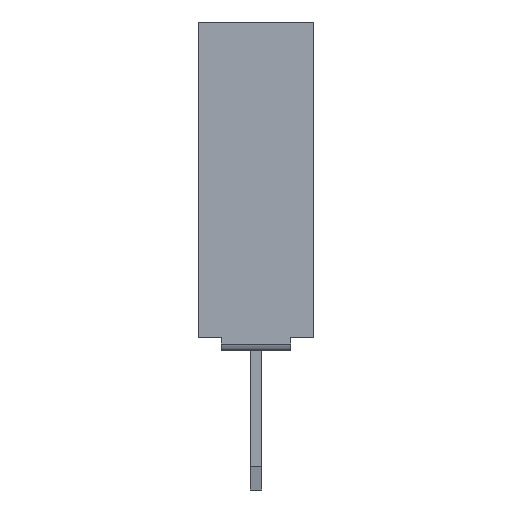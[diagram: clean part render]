
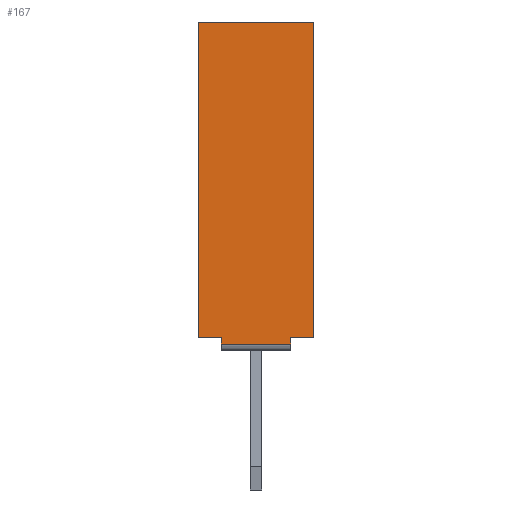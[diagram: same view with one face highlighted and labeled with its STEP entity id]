
A CAD part, front view. The second image highlights one B-rep face of the part: STEP entity #167.
In plain terms, the highlighted planar face has unit normal (0, -1, 0).
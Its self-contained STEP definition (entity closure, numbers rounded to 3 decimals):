
#167=ADVANCED_FACE('',(#1111),#661,.T.);
#661=PLANE('',#8854);
#1111=FACE_OUTER_BOUND('',#1688,.T.);
#1688=EDGE_LOOP('',(#2310,#2311,#2312,#2313,#2314,#2315,#2316,#2317));
#2310=ORIENTED_EDGE('',*,*,#5498,.T.);
#2311=ORIENTED_EDGE('',*,*,#5499,.T.);
#2312=ORIENTED_EDGE('',*,*,#5500,.F.);
#2313=ORIENTED_EDGE('',*,*,#5501,.T.);
#2314=ORIENTED_EDGE('',*,*,#5502,.T.);
#2315=ORIENTED_EDGE('',*,*,#5494,.T.);
#2316=ORIENTED_EDGE('',*,*,#5503,.F.);
#2317=ORIENTED_EDGE('',*,*,#5504,.T.);
#4718=VERTEX_POINT('',#11889);
#4719=VERTEX_POINT('',#11890);
#4722=VERTEX_POINT('',#11898);
#4723=VERTEX_POINT('',#11899);
#4724=VERTEX_POINT('',#11901);
#4725=VERTEX_POINT('',#11903);
#4726=VERTEX_POINT('',#11905);
#4727=VERTEX_POINT('',#11908);
#5494=EDGE_CURVE('',#4718,#4719,#6700,.T.);
#5498=EDGE_CURVE('',#4722,#4723,#6704,.T.);
#5499=EDGE_CURVE('',#4723,#4724,#6705,.T.);
#5500=EDGE_CURVE('',#4725,#4724,#6706,.T.);
#5501=EDGE_CURVE('',#4725,#4726,#6707,.T.);
#5502=EDGE_CURVE('',#4726,#4718,#6708,.T.);
#5503=EDGE_CURVE('',#4727,#4719,#6709,.T.);
#5504=EDGE_CURVE('',#4727,#4722,#6710,.T.);
#6700=LINE('',#11888,#7818);
#6704=LINE('',#11897,#7822);
#6705=LINE('',#11900,#7823);
#6706=LINE('',#11902,#7824);
#6707=LINE('',#11904,#7825);
#6708=LINE('',#11906,#7826);
#6709=LINE('',#11907,#7827);
#6710=LINE('',#11909,#7828);
#7818=VECTOR('',#9521,1.);
#7822=VECTOR('',#9527,1.);
#7823=VECTOR('',#9528,1.);
#7824=VECTOR('',#9529,1.);
#7825=VECTOR('',#9530,1.);
#7826=VECTOR('',#9531,1.);
#7827=VECTOR('',#9532,1.);
#7828=VECTOR('',#9533,1.);
#8854=AXIS2_PLACEMENT_3D('',#11910,#9534,#9535);
#9521=DIRECTION('',(-1.,0.,0.));
#9527=DIRECTION('',(0.,0.,-1.));
#9528=DIRECTION('',(1.,0.,0.));
#9529=DIRECTION('',(0.,0.,-1.));
#9530=DIRECTION('',(1.,0.,0.));
#9531=DIRECTION('',(0.,0.,1.));
#9532=DIRECTION('',(0.,0.,1.));
#9533=DIRECTION('',(1.,0.,0.));
#9534=DIRECTION('',(0.,-1.,0.));
#9535=DIRECTION('',(0.,0.,-1.));
#11888=CARTESIAN_POINT('',(1.25,0.,6.8));
#11889=CARTESIAN_POINT('',(2.5,0.,6.8));
#11890=CARTESIAN_POINT('',(0.,0.,6.8));
#11897=CARTESIAN_POINT('',(0.5,0.,-0.3));
#11898=CARTESIAN_POINT('',(0.5,0.,0.));
#11899=CARTESIAN_POINT('',(0.5,0.,-0.15));
#11900=CARTESIAN_POINT('',(1.25,0.,-0.15));
#11901=CARTESIAN_POINT('',(2.,0.,-0.15));
#11902=CARTESIAN_POINT('',(2.,0.,-0.3));
#11903=CARTESIAN_POINT('',(2.,0.,0.));
#11904=CARTESIAN_POINT('',(1.25,0.,0.));
#11905=CARTESIAN_POINT('',(2.5,0.,0.));
#11906=CARTESIAN_POINT('',(2.5,0.,0.));
#11907=CARTESIAN_POINT('',(0.,0.,0.));
#11908=CARTESIAN_POINT('',(0.,0.,0.));
#11909=CARTESIAN_POINT('',(1.25,0.,0.));
#11910=CARTESIAN_POINT('',(1.25,0.,0.));
